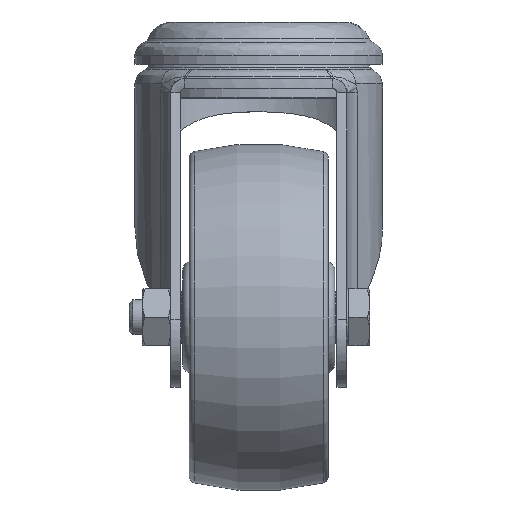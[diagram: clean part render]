
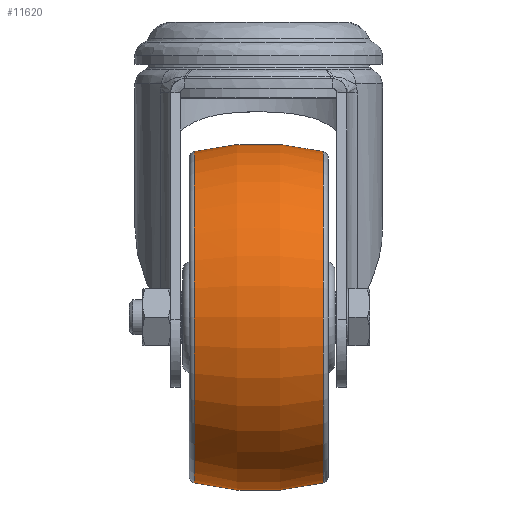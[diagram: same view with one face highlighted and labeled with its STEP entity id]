
A CAD part, top view. The second image highlights one B-rep face of the part: STEP entity #11620.
In plain terms, the highlighted toroidal (fillet/blend) face has major radius 20 mm and minor radius 60 mm.
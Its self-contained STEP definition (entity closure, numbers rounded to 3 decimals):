
#1124 = EDGE_CURVE ( 'NONE', #18622, #18622, #9471, .T. ) ;
#1125 = EDGE_CURVE ( 'NONE', #18624, #18624, #9470, .T. ) ;
#9330 = TOROIDAL_SURFACE ( 'NONE', #33169, -20., 60. ) ;
#9334 = FACE_OUTER_BOUND ( 'NONE', #12394, .T. ) ;
#9363 = FACE_OUTER_BOUND ( 'NONE', #12383, .T. ) ;
#9470 = CIRCLE ( 'NONE', #32950, 38.128 ) ;
#9471 = CIRCLE ( 'NONE', #32949, 38.128 ) ;
#11620 = ADVANCED_FACE ( 'NONE', ( #9363, #9334 ), #9330, .T. ) ;
#12383 = EDGE_LOOP ( 'NONE', ( #15480 ) ) ;
#12394 = EDGE_LOOP ( 'NONE', ( #15479 ) ) ;
#15479 = ORIENTED_EDGE ( 'NONE', *, *, #1125, .T. ) ;
#15480 = ORIENTED_EDGE ( 'NONE', *, *, #1124, .F. ) ;
#18622 = VERTEX_POINT ( 'NONE', #18623 ) ;
#18623 = CARTESIAN_POINT ( 'NONE',  ( -14.872, 0., 38.128 ) ) ;
#18624 = VERTEX_POINT ( 'NONE', #18625 ) ;
#18625 = CARTESIAN_POINT ( 'NONE',  ( 14.872, 0., 38.128 ) ) ;
#31791 = DIRECTION ( 'NONE',  ( -1., 0., 0. ) ) ;
#31792 = CARTESIAN_POINT ( 'NONE',  ( 0., 0., 0. ) ) ;
#31800 = DIRECTION ( 'NONE',  ( 0., 0., 1. ) ) ;
#32949 = AXIS2_PLACEMENT_3D ( 'NONE', #34668, #34675, #34676 ) ;
#32950 = AXIS2_PLACEMENT_3D ( 'NONE', #34671, #34678, #34679 ) ;
#33169 = AXIS2_PLACEMENT_3D ( 'NONE', #31792, #31791, #31800 ) ;
#34668 = CARTESIAN_POINT ( 'NONE',  ( -14.872, 0., 0. ) ) ;
#34671 = CARTESIAN_POINT ( 'NONE',  ( 14.872, 0., 0. ) ) ;
#34675 = DIRECTION ( 'NONE',  ( -1., 0., 0. ) ) ;
#34676 = DIRECTION ( 'NONE',  ( 0., 0., 1. ) ) ;
#34678 = DIRECTION ( 'NONE',  ( -1., 0., 0. ) ) ;
#34679 = DIRECTION ( 'NONE',  ( 0., 0., 1. ) ) ;
